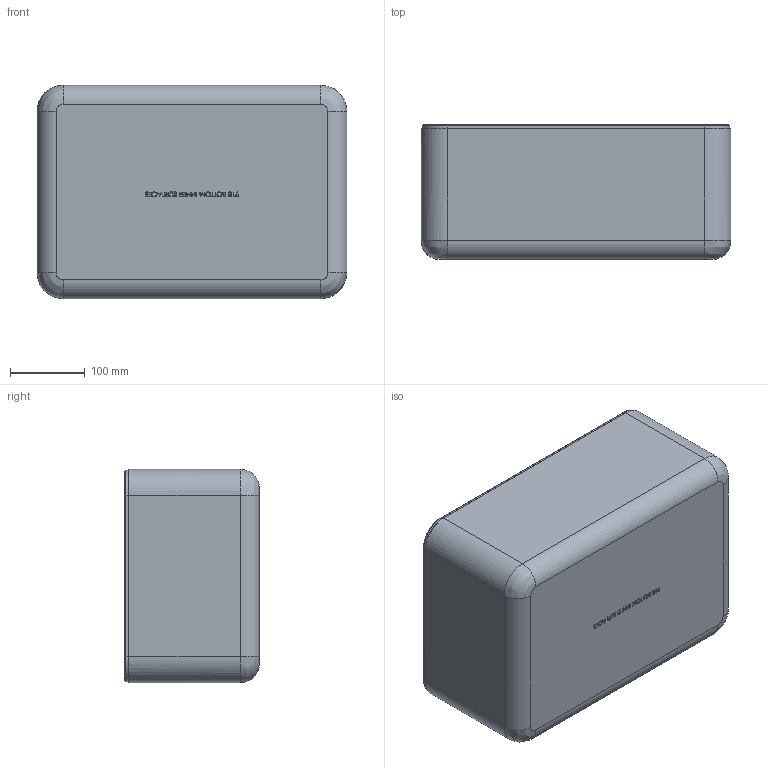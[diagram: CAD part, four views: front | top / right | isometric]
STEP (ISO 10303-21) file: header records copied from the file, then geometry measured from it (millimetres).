
FILE_DESCRIPTION (( 'STEP AP203' ), '1' );
FILE_NAME ('918_Bottom_INNER SURFACES.STEP', '2016-05-04T17:22:17', ( '' ), ( '' ), 'SwSTEP 2.0', 'SolidWorks 2015', '' );
FILE_SCHEMA (( 'CONFIG_CONTROL_DESIGN' ));
Products named in the file (1): 918_Bottom_INNER SURFACES
Bounding box: 414.82 x 180.72 x 285.79 mm (x, y, z)
Volume: 5373461.3 mm3; surface area: 655556.1 mm2
Topology: 1 solids, 1 shells, 974 faces, 2409 edges, 1491 vertices
Faces by surface type: bspline 401, plane 279, cylinder 132, torus 118, cone 44
Entity records: 75616 total; most frequent: CARTESIAN_POINT 55604, ORIENTED_EDGE 4806, DIRECTION 3155, EDGE_CURVE 2403, VERTEX_POINT 1491, AXIS2_PLACEMENT_3D 1136, EDGE_LOOP 1034, FACE_OUTER_BOUND 974
